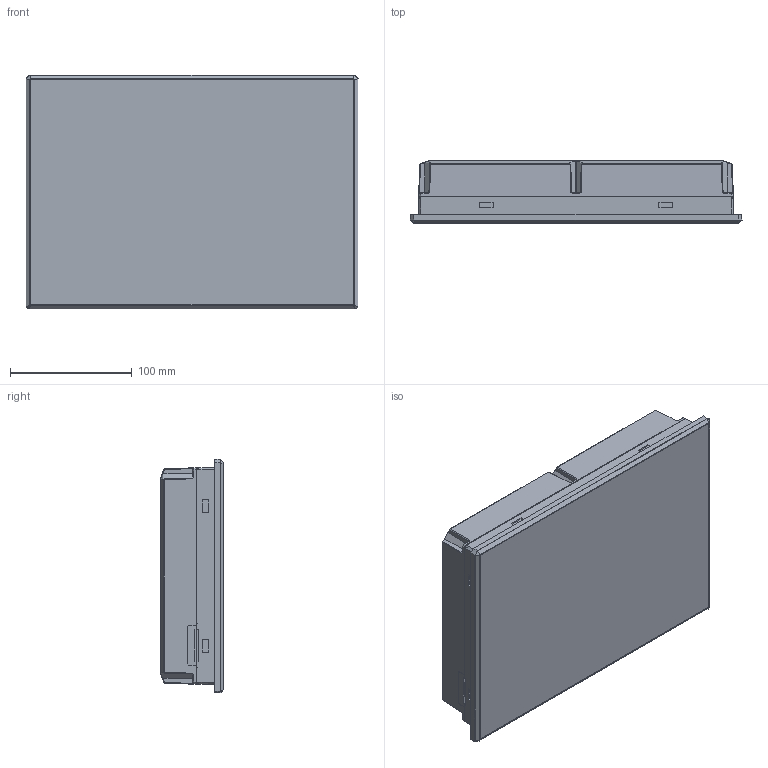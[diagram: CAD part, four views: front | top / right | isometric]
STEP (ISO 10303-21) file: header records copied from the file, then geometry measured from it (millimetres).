
FILE_DESCRIPTION(/* description */ (''),/* implementation_level */ '2;1');
FILE_NAME(/* name */ 'TGA62-MT',/* time_stamp */ '2023-04-25T19:02:33+08:00',/* author */ (''),/* organization */ (''),/* preprocessor_version */ 'ST-DEVELOPER v16.5',/* originating_system */ '',/* authorisation */ '');
FILE_SCHEMA (('AUTOMOTIVE_DESIGN'));
Products named in the file (1): Document
Bounding box: 272.2 x 51.2 x 191.68 mm (x, y, z)
Volume: 19551.9 mm3; surface area: 361168.9 mm2
Topology: 1 solids, 1135 shells, 2140 faces, 8955 edges, 7941 vertices
Faces by surface type: plane 1468, bspline 672
Entity records: 108953 total; most frequent: CARTESIAN_POINT 57636, ORIENTED_EDGE 11856, EDGE_CURVE 8934, B_SPLINE_CURVE_WITH_KNOTS 7942, VERTEX_POINT 7931, EDGE_LOOP 2204, ADVANCED_FACE 2140, FACE_OUTER_BOUND 2140
